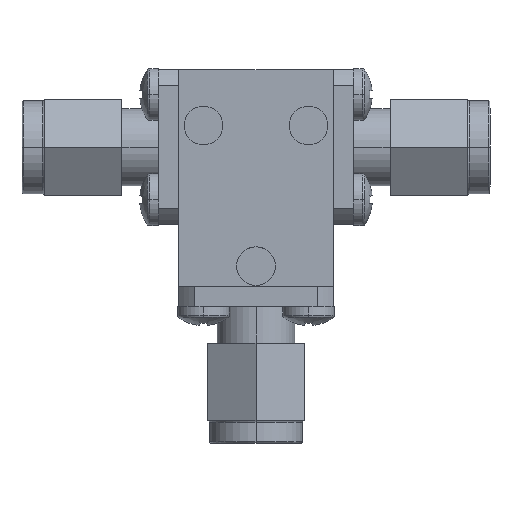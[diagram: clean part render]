
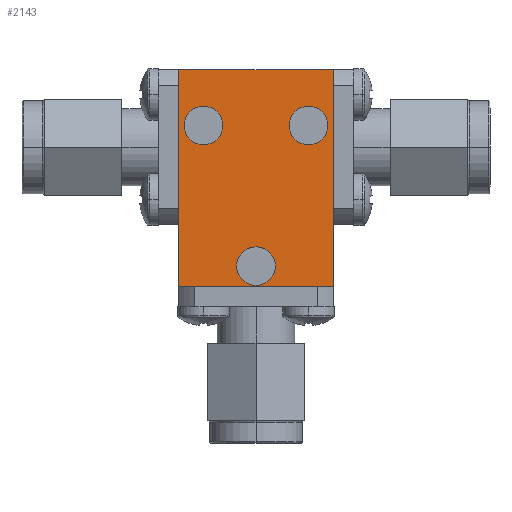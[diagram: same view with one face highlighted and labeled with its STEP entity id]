
A CAD part, top view. The second image highlights one B-rep face of the part: STEP entity #2143.
In plain terms, the highlighted planar face has unit normal (0, 0, 1) as drawn and (0, 0, -1) by its records, which use the part's own axes.
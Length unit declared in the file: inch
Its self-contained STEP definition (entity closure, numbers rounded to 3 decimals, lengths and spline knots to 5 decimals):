
#17 = EDGE_CURVE ( 'NONE', #2241, #3075, #3086, .T. ) ;
#22 = DIRECTION ( 'NONE',  ( 1., 0., 0. ) ) ;
#25 = EDGE_CURVE ( 'NONE', #1846, #2839, #369, .T. ) ;
#86 = DIRECTION ( 'NONE',  ( 0., -1., 0. ) ) ;
#135 = AXIS2_PLACEMENT_3D ( 'NONE', #2941, #397, #2951 ) ;
#153 = DIRECTION ( 'NONE',  ( 1., 0., 0. ) ) ;
#183 = EDGE_CURVE ( 'NONE', #404, #1963, #2600, .T. ) ;
#188 = CARTESIAN_POINT ( 'NONE',  ( -0.25, 0.35, -0.25 ) ) ;
#246 = ORIENTED_EDGE ( 'NONE', *, *, #17, .T. ) ;
#261 = VECTOR ( 'NONE', #1850, 39.37008 ) ;
#316 = ORIENTED_EDGE ( 'NONE', *, *, #1531, .T. ) ;
#347 = CARTESIAN_POINT ( 'NONE',  ( 0.2325, 0.17, -0.25 ) ) ;
#369 = CIRCLE ( 'NONE', #2054, 0.0625 ) ;
#380 = DIRECTION ( 'NONE',  ( 1., 0., 0. ) ) ;
#392 = AXIS2_PLACEMENT_3D ( 'NONE', #727, #3262, #1233 ) ;
#393 = CARTESIAN_POINT ( 'NONE',  ( -0.25, 0.35, -0.25 ) ) ;
#397 = DIRECTION ( 'NONE',  ( 0., 0., 1. ) ) ;
#404 = VERTEX_POINT ( 'NONE', #1771 ) ;
#545 = AXIS2_PLACEMENT_3D ( 'NONE', #836, #1360, #22 ) ;
#591 = CARTESIAN_POINT ( 'NONE',  ( 0.0625, -0.285, -0.25 ) ) ;
#608 = ORIENTED_EDGE ( 'NONE', *, *, #1305, .F. ) ;
#645 = VECTOR ( 'NONE', #2685, 39.37008 ) ;
#646 = FACE_OUTER_BOUND ( 'NONE', #1959, .T. ) ;
#694 = DIRECTION ( 'NONE',  ( 0., 0., 1. ) ) ;
#727 = CARTESIAN_POINT ( 'NONE',  ( 0., -0.285, -0.25 ) ) ;
#728 = VECTOR ( 'NONE', #86, 39.37008 ) ;
#737 = VERTEX_POINT ( 'NONE', #188 ) ;
#756 = EDGE_LOOP ( 'NONE', ( #316, #1098 ) ) ;
#836 = CARTESIAN_POINT ( 'NONE',  ( 0.17, 0.17, -0.25 ) ) ;
#1005 = CIRCLE ( 'NONE', #2359, 0.0625 ) ;
#1073 = CARTESIAN_POINT ( 'NONE',  ( -0.25, -0.35, -0.25 ) ) ;
#1098 = ORIENTED_EDGE ( 'NONE', *, *, #183, .T. ) ;
#1189 = AXIS2_PLACEMENT_3D ( 'NONE', #1213, #1381, #2642 ) ;
#1195 = ORIENTED_EDGE ( 'NONE', *, *, #3166, .T. ) ;
#1208 = CARTESIAN_POINT ( 'NONE',  ( 0.25, 0.35, -0.25 ) ) ;
#1213 = CARTESIAN_POINT ( 'NONE',  ( 0., 0., -0.25 ) ) ;
#1233 = DIRECTION ( 'NONE',  ( 1., 0., 0. ) ) ;
#1290 = AXIS2_PLACEMENT_3D ( 'NONE', #2770, #2832, #2344 ) ;
#1305 = EDGE_CURVE ( 'NONE', #1528, #2276, #1732, .T. ) ;
#1360 = DIRECTION ( 'NONE',  ( 0., 0., 1. ) ) ;
#1368 = CIRCLE ( 'NONE', #392, 0.0625 ) ;
#1381 = DIRECTION ( 'NONE',  ( 0., 0., 1. ) ) ;
#1383 = EDGE_LOOP ( 'NONE', ( #1426, #1195 ) ) ;
#1401 = CARTESIAN_POINT ( 'NONE',  ( -0.25, 0.35, -0.25 ) ) ;
#1426 = ORIENTED_EDGE ( 'NONE', *, *, #25, .T. ) ;
#1465 = CARTESIAN_POINT ( 'NONE',  ( 0., -0.285, -0.25 ) ) ;
#1499 = EDGE_CURVE ( 'NONE', #737, #2332, #2080, .T. ) ;
#1528 = VERTEX_POINT ( 'NONE', #1926 ) ;
#1531 = EDGE_CURVE ( 'NONE', #1963, #404, #1005, .T. ) ;
#1583 = EDGE_LOOP ( 'NONE', ( #246, #2820 ) ) ;
#1732 = LINE ( 'NONE', #1208, #3084 ) ;
#1771 = CARTESIAN_POINT ( 'NONE',  ( 0.1075, 0.17, -0.25 ) ) ;
#1826 = FACE_BOUND ( 'NONE', #1583, .T. ) ;
#1846 = VERTEX_POINT ( 'NONE', #591 ) ;
#1850 = DIRECTION ( 'NONE',  ( 1., 0., 0. ) ) ;
#1897 = CARTESIAN_POINT ( 'NONE',  ( -0.1075, 0.17, -0.25 ) ) ;
#1911 = ORIENTED_EDGE ( 'NONE', *, *, #1947, .F. ) ;
#1926 = CARTESIAN_POINT ( 'NONE',  ( 0.25, -0.35, -0.25 ) ) ;
#1932 = CIRCLE ( 'NONE', #1290, 0.0625 ) ;
#1938 = DIRECTION ( 'NONE',  ( 0., 0., 1. ) ) ;
#1947 = EDGE_CURVE ( 'NONE', #2276, #737, #1976, .T. ) ;
#1959 = EDGE_LOOP ( 'NONE', ( #608, #2219, #2266, #1911 ) ) ;
#1963 = VERTEX_POINT ( 'NONE', #347 ) ;
#1976 = LINE ( 'NONE', #393, #645 ) ;
#2015 = LINE ( 'NONE', #1073, #261 ) ;
#2054 = AXIS2_PLACEMENT_3D ( 'NONE', #1465, #694, #153 ) ;
#2080 = LINE ( 'NONE', #1401, #728 ) ;
#2143 = ADVANCED_FACE ( 'NONE', ( #2287, #2945, #1826, #646 ), #2720, .F. ) ;
#2199 = DIRECTION ( 'NONE',  ( 0., 1., 0. ) ) ;
#2219 = ORIENTED_EDGE ( 'NONE', *, *, #2469, .F. ) ;
#2241 = VERTEX_POINT ( 'NONE', #1897 ) ;
#2266 = ORIENTED_EDGE ( 'NONE', *, *, #1499, .F. ) ;
#2276 = VERTEX_POINT ( 'NONE', #3110 ) ;
#2287 = FACE_BOUND ( 'NONE', #756, .T. ) ;
#2332 = VERTEX_POINT ( 'NONE', #2443 ) ;
#2344 = DIRECTION ( 'NONE',  ( 1., 0., 0. ) ) ;
#2359 = AXIS2_PLACEMENT_3D ( 'NONE', #3133, #1938, #380 ) ;
#2443 = CARTESIAN_POINT ( 'NONE',  ( -0.25, -0.35, -0.25 ) ) ;
#2469 = EDGE_CURVE ( 'NONE', #2332, #1528, #2015, .T. ) ;
#2600 = CIRCLE ( 'NONE', #545, 0.0625 ) ;
#2642 = DIRECTION ( 'NONE',  ( 1., 0., 0. ) ) ;
#2685 = DIRECTION ( 'NONE',  ( -1., 0., 0. ) ) ;
#2700 = CARTESIAN_POINT ( 'NONE',  ( -0.2325, 0.17, -0.25 ) ) ;
#2720 = PLANE ( 'NONE',  #1189 ) ;
#2770 = CARTESIAN_POINT ( 'NONE',  ( -0.17, 0.17, -0.25 ) ) ;
#2820 = ORIENTED_EDGE ( 'NONE', *, *, #2821, .T. ) ;
#2821 = EDGE_CURVE ( 'NONE', #3075, #2241, #1932, .T. ) ;
#2832 = DIRECTION ( 'NONE',  ( 0., 0., 1. ) ) ;
#2839 = VERTEX_POINT ( 'NONE', #3119 ) ;
#2941 = CARTESIAN_POINT ( 'NONE',  ( -0.17, 0.17, -0.25 ) ) ;
#2945 = FACE_BOUND ( 'NONE', #1383, .T. ) ;
#2951 = DIRECTION ( 'NONE',  ( 1., 0., 0. ) ) ;
#3075 = VERTEX_POINT ( 'NONE', #2700 ) ;
#3084 = VECTOR ( 'NONE', #2199, 39.37008 ) ;
#3086 = CIRCLE ( 'NONE', #135, 0.0625 ) ;
#3110 = CARTESIAN_POINT ( 'NONE',  ( 0.25, 0.35, -0.25 ) ) ;
#3119 = CARTESIAN_POINT ( 'NONE',  ( -0.0625, -0.285, -0.25 ) ) ;
#3133 = CARTESIAN_POINT ( 'NONE',  ( 0.17, 0.17, -0.25 ) ) ;
#3166 = EDGE_CURVE ( 'NONE', #2839, #1846, #1368, .T. ) ;
#3262 = DIRECTION ( 'NONE',  ( 0., 0., 1. ) ) ;
